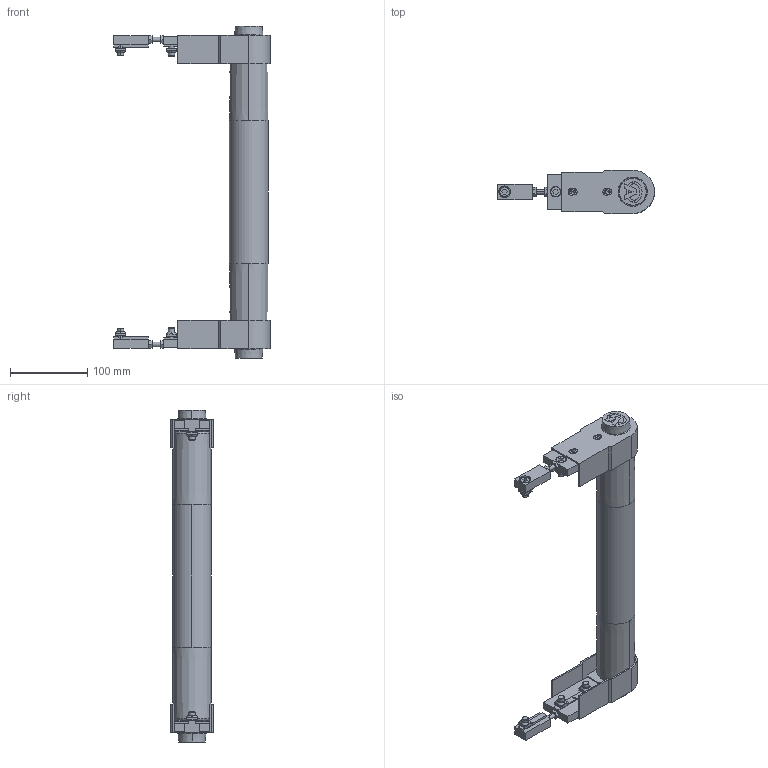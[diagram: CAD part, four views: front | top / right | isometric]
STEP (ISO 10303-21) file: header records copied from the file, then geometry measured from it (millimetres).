
FILE_DESCRIPTION (( 'STEP AP203' ), '1' );
FILE_NAME ('084.050.KIC.350.STEP', '2019-07-29T10:25:38', ( '' ), ( '' ), 'SwSTEP 2.0', 'SolidWorks 2018', '' );
FILE_SCHEMA (( 'CONFIG_CONTROL_DESIGN' ));
Length unit declared in the file: millimetre
Products named in the file (11): 084.811.004; 084.802.008; 084.810.001; 084.802.023_084.802.023; 084.802.017_084.802.017; 084.807.004_084.807.004; VITI TSEI UNI 5933_M4x12 UNI 5933; 084.050.KIC.350; 084.815.128_Default<A macchina>; 084.301.000 VITI ALUSIC_084.301.003; 084.302.000 DADI ALUSIC 13x13_084.302.004
Assembly tree (29 placements, depth 2):
  084.050.KIC.350
    084.802.023_084.802.023  x2
    084.807.004_084.807.004  x2
    084.802.017_084.802.017  x2
    084.811.004  x2
    084.815.128_Default<A macchina>
    084.810.001  x2
    084.802.008  x2
    VITI TSEI UNI 5933_M4x12 UNI 5933  x4
    084.301.000 VITI ALUSIC_084.301.003  x6
    084.302.000 DADI ALUSIC 13x13_084.302.004  x6
Bounding box: 203 x 56 x 430 mm (x, y, z)
Volume: 520549 mm3; surface area: 344496.6 mm2
Topology: 35 solids, 37 shells, 950 faces, 2360 edges, 1532 vertices
Faces by surface type: plane 458, cylinder 250, cone 92, torus 80, bspline 62, sphere 8
Entity records: 15287 total; most frequent: CARTESIAN_POINT 2926, DIRECTION 2296, ORIENTED_EDGE 2180, EDGE_CURVE 1090, AXIS2_PLACEMENT_3D 859, VERTEX_POINT 713, LINE 578, VECTOR 578
